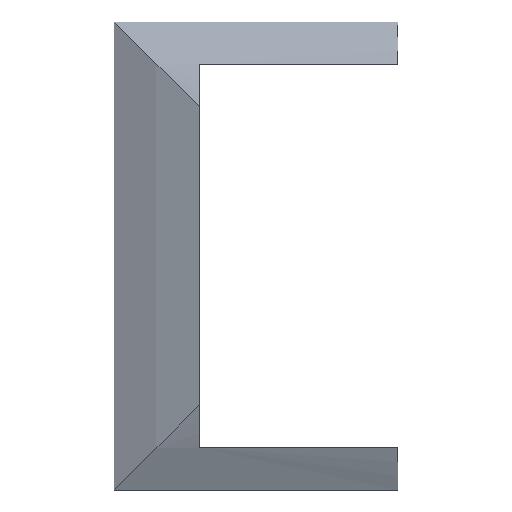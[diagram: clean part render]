
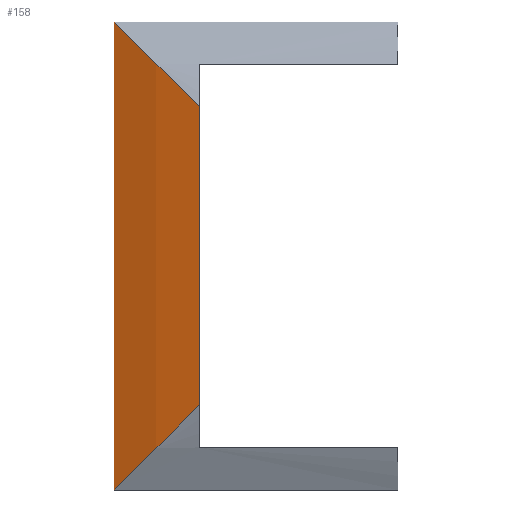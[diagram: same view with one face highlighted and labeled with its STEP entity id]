
A CAD part, top view. The second image highlights one B-rep face of the part: STEP entity #158.
In plain terms, the highlighted cylindrical face has radius 1.85 mm (diameter 3.7 mm), a partial arc.
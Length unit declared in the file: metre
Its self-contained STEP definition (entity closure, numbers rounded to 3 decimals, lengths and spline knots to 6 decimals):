
#12=B_SPLINE_CURVE_WITH_KNOTS('',3,(#249,#250,#251,#252),.UNSPECIFIED.,
 .F.,.F.,(4,4),(63.111952,73.136865),.UNSPECIFIED.);
#13=B_SPLINE_CURVE_WITH_KNOTS('',3,(#264,#265,#266,#267),.UNSPECIFIED.,
 .F.,.F.,(4,4),(106.865711,116.888435),.UNSPECIFIED.);
#15=CYLINDRICAL_SURFACE('',#176,0.00185);
#46=ORIENTED_EDGE('',*,*,#71,.T.);
#47=ORIENTED_EDGE('',*,*,#81,.T.);
#48=ORIENTED_EDGE('',*,*,#82,.T.);
#49=ORIENTED_EDGE('',*,*,#75,.T.);
#71=EDGE_CURVE('',#88,#91,#104,.T.);
#75=EDGE_CURVE('',#94,#88,#12,.T.);
#81=EDGE_CURVE('',#91,#97,#13,.T.);
#82=EDGE_CURVE('',#97,#94,#111,.F.);
#88=VERTEX_POINT('',#234);
#91=VERTEX_POINT('',#240);
#94=VERTEX_POINT('',#253);
#97=VERTEX_POINT('',#268);
#104=LINE('',#241,#119);
#111=LINE('',#269,#126);
#119=VECTOR('',#195,1.);
#126=VECTOR('',#216,1.);
#134=EDGE_LOOP('',(#46,#47,#48,#49));
#143=FACE_BOUND('',#134,.T.);
#158=ADVANCED_FACE('',(#143),#15,.T.);
#176=AXIS2_PLACEMENT_3D('',#263,#214,#215);
#195=DIRECTION('',(0.,1.,0.));
#214=DIRECTION('',(0.,1.,0.));
#215=DIRECTION('',(-0.452,0.,0.892));
#216=DIRECTION('',(0.,1.,0.));
#234=CARTESIAN_POINT('',(0.004298,0.001225,-0.02828));
#240=CARTESIAN_POINT('',(0.004298,0.002275,-0.02828));
#241=CARTESIAN_POINT('',(0.004298,0.002575,-0.02828));
#249=CARTESIAN_POINT('',(0.003998,0.000925,-0.0284));
#250=CARTESIAN_POINT('',(0.004094,0.001021,-0.028351));
#251=CARTESIAN_POINT('',(0.004195,0.001122,-0.028311));
#252=CARTESIAN_POINT('',(0.004298,0.001225,-0.02828));
#253=CARTESIAN_POINT('',(0.003998,0.000925,-0.0284));
#263=CARTESIAN_POINT('',(0.004835,0.002575,-0.03005));
#264=CARTESIAN_POINT('',(0.004298,0.002275,-0.02828));
#265=CARTESIAN_POINT('',(0.004195,0.002378,-0.028311));
#266=CARTESIAN_POINT('',(0.004094,0.002479,-0.028351));
#267=CARTESIAN_POINT('',(0.003998,0.002575,-0.0284));
#268=CARTESIAN_POINT('',(0.003998,0.002575,-0.0284));
#269=CARTESIAN_POINT('',(0.003998,0.002575,-0.0284));
